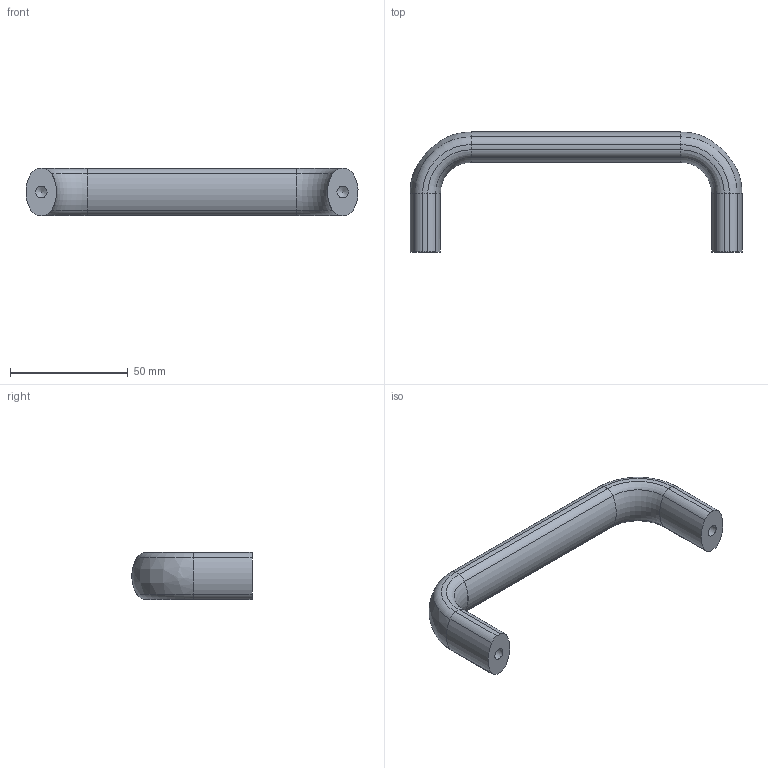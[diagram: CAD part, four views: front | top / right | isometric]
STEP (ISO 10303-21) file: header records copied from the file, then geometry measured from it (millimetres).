
FILE_DESCRIPTION( ( 'STEP AP203' ), '1' );
FILE_NAME( 'C:/Temp/Ganter_Step_05_03_2020/data/1_2/gn_565/Cabinet ''''U'''' handle GN 565-20-128-SR.stp', '2020-03-05T10:08:45', ( 'License CC BY-ND 4.0' ), ( 'CADENAS' ), ' ', 'PARTsolutions', ' ' );
FILE_SCHEMA( ( 'CONFIG_CONTROL_DESIGN' ) );
Length unit declared in the file: millimetre
Products named in the file (1): _Cabinet ''U'' handle GN 565-20-128-SR
Bounding box: 140.91 x 50.97 x 19.99 mm (x, y, z)
Volume: 41544.8 mm3; surface area: 11468.1 mm2
Topology: 1 solids, 1 shells, 53 faces, 128 edges, 77 vertices
Faces by surface type: cylinder 26, torus 14, plane 9, bspline 2, cone 2
Full cylindrical faces by diameter (mm): 4.917 x2
Entity records: 1640 total; most frequent: CARTESIAN_POINT 337, DIRECTION 304, ORIENTED_EDGE 244, AXIS2_PLACEMENT_3D 140, EDGE_CURVE 122, CIRCLE 88, VERTEX_POINT 77, EDGE_LOOP 57
